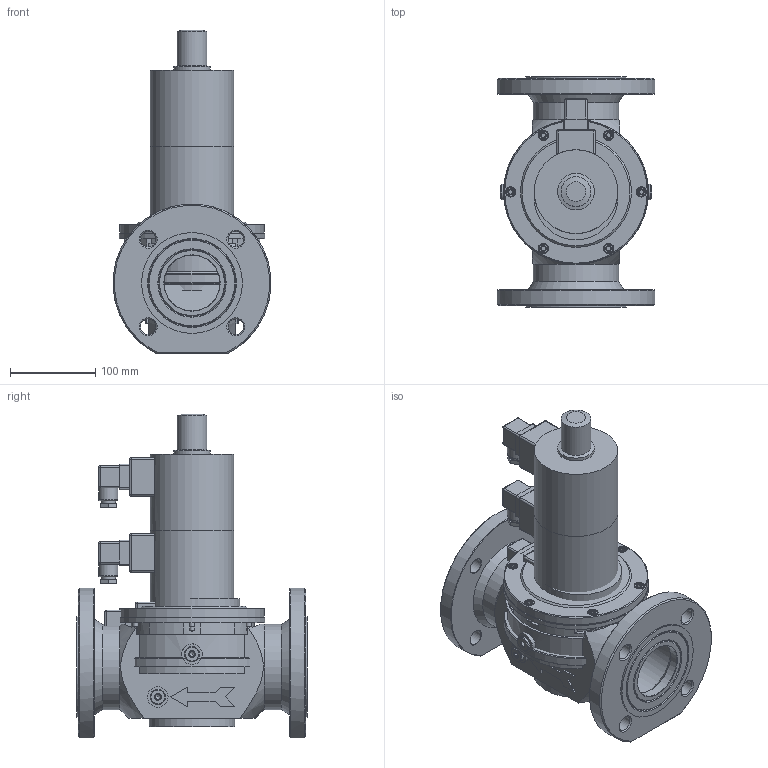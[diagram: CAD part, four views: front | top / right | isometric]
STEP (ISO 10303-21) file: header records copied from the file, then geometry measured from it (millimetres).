
FILE_DESCRIPTION( ( 'Unknown' ), '1' );
FILE_NAME( 'D:/Wyroby/Widoki gabarytowe/Zawory ZED/ZED_65k/ZED_65k.stp', 'Unknown', ( 'Unknown' ), ( 'Unknown' ), 'XStep 1.0', 'Unknown', ' ' );
FILE_SCHEMA( ( 'CONFIG_CONTROL_DESIGN' ) );
Length unit declared in the file: millimetre
Products named in the file (61): Assem1; Wa_110_01_02z_korkami; Wa_151_01_00; Wa_053_01_02; Wa_150_01_02; Wa_150_01_01; Wa_110_01_02b.g._z.k.; Wa_053_01_01_001gotowe; Wa_053_01_02_001zaci從i黎y; Wa_053_01_02_003zaci從i黎a; Wa_053_01_02_002; Wa_150_01_01_001; Wa_148_01_01_002; Wa_031_01_04_002got; Wa_031_01_04_001; Wa_150_01_02_001; Wa_148_01_02_002got.; Wa_053_01_00_001; Wa_148_01_00_008; Wa_148_01_00_007; Wa_150_01_00_002; Wa_150_01_00_001; Wa_148_01_00_002; Wa_031_01_00_012; Wa_031_01_00_010; Œ-008ImbusM6x16; T-026; K-006got.; Oring138x3彡i從i黎y; Wa_031_01_00_006; Wa_053_01_00_002彡i從i黎a42,5; Wa_053_01_09; Wa_031_01_00_003; Wa_148_01_00_010; Oring32x2,5彡i從.; Wa_148_01_00_003; Oring12x2彡i從i黎y; Oring6x2彡i從.; Wa_148_01_00_009; Wa_145_01_00_009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
Bounding box: 184.67 x 270 x 379 mm (x, y, z)
Volume: 4622069.1 mm3; surface area: 2431032.4 mm2
Topology: 170 solids, 174 shells, 3115 faces, 6794 edges, 4305 vertices
Faces by surface type: plane 1420, cylinder 908, cone 674, torus 68, sphere 42, bspline 3
Full cylindrical faces by diameter (mm): 2 x9, 2.1 x8, 2.5 x10, 4.8 x7, 4.917 x32, 6 x28, 6.1 x3, 6.5 x15, 6.6 x18, 6.917 x6, 8 x11, 8.2 x18, 9 x4, 9.7 x15, 10 x21, 11 x21, 11.445 x16, 11.5 x3, 12.5 x9, 12.7 x6, 12.917 x6, 13 x12, 13.8 x12, 14 x6, 15.5 x9, 16 x6, 16.2 x3, 17 x4, 18 x56, 22 x4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
Entity records: 28641 total; most frequent: CARTESIAN_POINT 7049, DIRECTION 4162, ORIENTED_EDGE 2992, AXIS2_PLACEMENT_3D 1809, EDGE_LOOP 1586, EDGE_CURVE 1496, FACE_OUTER_BOUND 1198, VERTEX_POINT 1182
